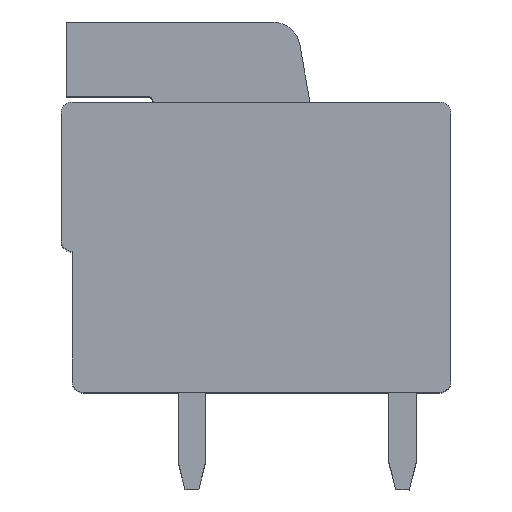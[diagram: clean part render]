
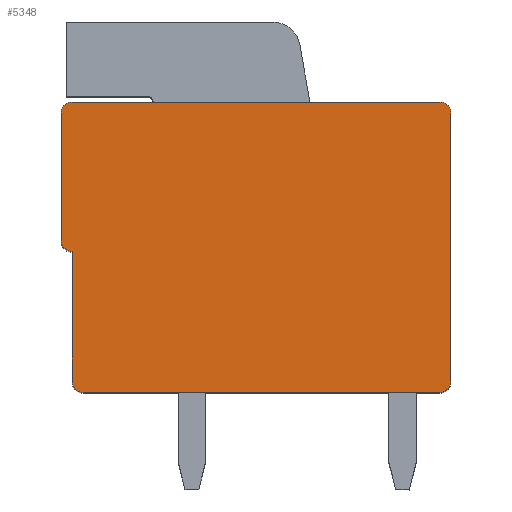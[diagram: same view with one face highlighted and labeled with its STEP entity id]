
A CAD part, top view. The second image highlights one B-rep face of the part: STEP entity #5348.
In plain terms, the highlighted planar face has unit normal (0, 0, 1).
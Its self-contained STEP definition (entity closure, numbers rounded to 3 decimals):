
#61=DIRECTION('',(-1.,0.,0.));
#62=VECTOR('',#61,13.304);
#63=CARTESIAN_POINT('',(13.702,14.,0.));
#64=LINE('',#63,#62);
#850=DIRECTION('',(0.,-1.,0.));
#851=VECTOR('',#850,4.607);
#852=CARTESIAN_POINT('',(0.002,13.603,0.));
#853=LINE('',#852,#851);
#932=DIRECTION('',(0.,-1.,0.));
#933=VECTOR('',#932,4.698);
#934=CARTESIAN_POINT('',(0.4,8.6,0.));
#935=LINE('',#934,#933);
#1685=CARTESIAN_POINT('',(13.702,13.6,0.));
#1686=DIRECTION('',(0.,0.,-1.));
#1687=DIRECTION('',(0.,1.,0.));
#1688=AXIS2_PLACEMENT_3D('',#1685,#1686,#1687);
#1690=DIRECTION('',(0.,-1.,0.));
#1691=VECTOR('',#1690,9.7);
#1692=CARTESIAN_POINT('',(14.102,13.6,0.));
#1693=LINE('',#1692,#1691);
#1694=CARTESIAN_POINT('',(13.702,3.9,0.));
#1695=DIRECTION('',(0.,0.,-1.));
#1696=DIRECTION('',(1.,0.,0.));
#1697=AXIS2_PLACEMENT_3D('',#1694,#1695,#1696);
#1699=DIRECTION('',(-1.,0.,0.));
#1700=VECTOR('',#1699,12.902);
#1701=CARTESIAN_POINT('',(13.702,3.5,0.));
#1702=LINE('',#1701,#1700);
#1703=CARTESIAN_POINT('',(0.8,3.9,0.));
#1704=DIRECTION('',(0.,0.,-1.));
#1705=DIRECTION('',(0.001,-1.,0.));
#1706=AXIS2_PLACEMENT_3D('',#1703,#1704,#1705);
#1708=CARTESIAN_POINT('',(0.4,9.,0.));
#1709=DIRECTION('',(0.,0.,-1.));
#1710=DIRECTION('',(-0.001,-1.,0.));
#1711=AXIS2_PLACEMENT_3D('',#1708,#1709,#1710);
#1713=CARTESIAN_POINT('',(0.398,13.604,0.));
#1714=DIRECTION('',(0.,0.,-1.));
#1715=DIRECTION('',(-1.,-0.003,0.));
#1716=AXIS2_PLACEMENT_3D('',#1713,#1714,#1715);
#2250=CARTESIAN_POINT('',(0.8,3.5,0.));
#2252=VERTEX_POINT('',#2250);
#2254=CARTESIAN_POINT('',(13.702,14.,0.));
#2255=CARTESIAN_POINT('',(14.102,13.6,0.));
#2256=VERTEX_POINT('',#2254);
#2257=VERTEX_POINT('',#2255);
#2258=CARTESIAN_POINT('',(14.102,3.9,0.));
#2259=VERTEX_POINT('',#2258);
#2260=CARTESIAN_POINT('',(13.702,3.5,0.));
#2261=VERTEX_POINT('',#2260);
#2262=CARTESIAN_POINT('',(0.4,3.902,0.));
#2263=VERTEX_POINT('',#2262);
#2264=CARTESIAN_POINT('',(0.4,8.6,0.));
#2265=VERTEX_POINT('',#2264);
#2266=CARTESIAN_POINT('',(0.,8.996,0.));
#2267=VERTEX_POINT('',#2266);
#2268=CARTESIAN_POINT('',(0.002,13.603,0.));
#2269=VERTEX_POINT('',#2268);
#2270=CARTESIAN_POINT('',(0.398,14.,0.));
#2271=VERTEX_POINT('',#2270);
#5331=CARTESIAN_POINT('',(7.051,8.75,0.));
#5332=DIRECTION('',(0.,0.,1.));
#5333=DIRECTION('',(1.,0.,0.));
#5334=AXIS2_PLACEMENT_3D('',#5331,#5332,#5333);
#5335=PLANE('',#5334);
#5336=ORIENTED_EDGE('',*,*,#5306,.T.);
#5337=ORIENTED_EDGE('',*,*,#5284,.T.);
#5338=ORIENTED_EDGE('',*,*,#5260,.T.);
#5339=ORIENTED_EDGE('',*,*,#4340,.T.);
#5340=ORIENTED_EDGE('',*,*,#4293,.T.);
#5341=ORIENTED_EDGE('',*,*,#4265,.F.);
#5342=ORIENTED_EDGE('',*,*,#4244,.T.);
#5343=ORIENTED_EDGE('',*,*,#4144,.F.);
#5344=ORIENTED_EDGE('',*,*,#4117,.T.);
#5345=ORIENTED_EDGE('',*,*,#2993,.F.);
#5346=EDGE_LOOP('',(#5336,#5337,#5338,#5339,#5340,#5341,#5342,#5343,#5344,
#5345));
#5347=FACE_OUTER_BOUND('',#5346,.F.);
#1689=CIRCLE('',#1688,0.4);
#1698=CIRCLE('',#1697,0.4);
#1707=CIRCLE('',#1706,0.4);
#1712=CIRCLE('',#1711,0.4);
#1717=CIRCLE('',#1716,0.396);
#2993=EDGE_CURVE('',#2256,#2271,#64,.T.);
#4117=EDGE_CURVE('',#2269,#2271,#1717,.T.);
#4144=EDGE_CURVE('',#2269,#2267,#853,.T.);
#4244=EDGE_CURVE('',#2265,#2267,#1712,.T.);
#4265=EDGE_CURVE('',#2265,#2263,#935,.T.);
#4293=EDGE_CURVE('',#2252,#2263,#1707,.T.);
#4340=EDGE_CURVE('',#2261,#2252,#1702,.T.);
#5260=EDGE_CURVE('',#2259,#2261,#1698,.T.);
#5284=EDGE_CURVE('',#2257,#2259,#1693,.T.);
#5306=EDGE_CURVE('',#2256,#2257,#1689,.T.);
#5348=ADVANCED_FACE('',(#5347),#5335,.T.);
